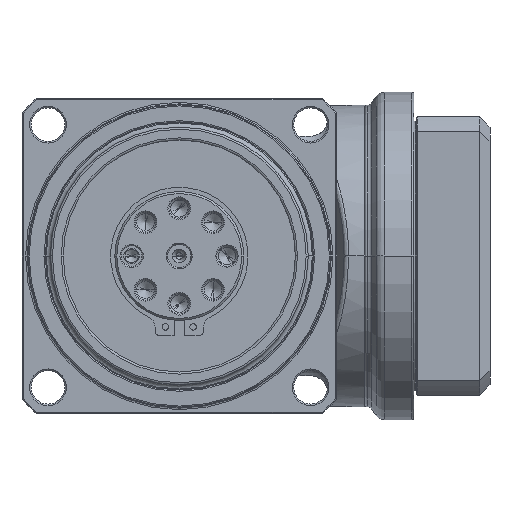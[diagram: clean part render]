
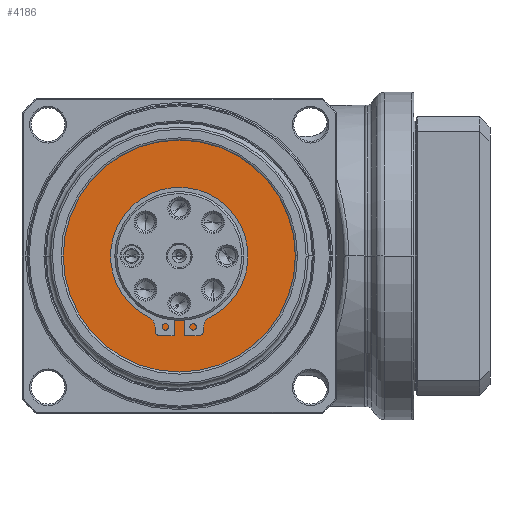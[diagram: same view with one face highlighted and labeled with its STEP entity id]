
A CAD part, left-side view. The second image highlights one B-rep face of the part: STEP entity #4186.
In plain terms, the highlighted planar face has unit normal (-1, 0, 0).
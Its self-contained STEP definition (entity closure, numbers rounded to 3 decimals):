
#3209=CARTESIAN_POINT('',(-42.8,0.,0.));
#3210=DIRECTION('',(1.,0.,0.));
#3211=DIRECTION('',(0.,1.,0.));
#3212=AXIS2_PLACEMENT_3D('',#3209,#3210,#3211);
#3218=CARTESIAN_POINT('',(-42.8,0.,0.));
#3219=DIRECTION('',(-1.,0.,0.));
#3220=DIRECTION('',(0.,1.,0.));
#3221=AXIS2_PLACEMENT_3D('',#3218,#3219,#3220);
#3237=CARTESIAN_POINT('',(-42.8,0.,0.));
#3238=DIRECTION('',(-1.,0.,0.));
#3239=DIRECTION('',(0.,1.,0.));
#3240=AXIS2_PLACEMENT_3D('',#3237,#3238,#3239);
#3242=CARTESIAN_POINT('',(-42.8,0.,0.));
#3243=DIRECTION('',(1.,0.,0.));
#3244=DIRECTION('',(0.,1.,0.));
#3245=AXIS2_PLACEMENT_3D('',#3242,#3243,#3244);
#3890=CARTESIAN_POINT('',(-42.8,45.,0.));
#3892=VERTEX_POINT('',#3890);
#3894=CARTESIAN_POINT('',(-42.8,-45.,0.));
#3896=VERTEX_POINT('',#3894);
#3897=CARTESIAN_POINT('',(-42.8,25.,0.));
#3898=CARTESIAN_POINT('',(-42.8,-25.,0.));
#3899=VERTEX_POINT('',#3897);
#3900=VERTEX_POINT('',#3898);
#4171=CARTESIAN_POINT('',(-42.8,0.,0.));
#4172=DIRECTION('',(1.,0.,0.));
#4173=DIRECTION('',(0.,-1.,0.));
#4174=AXIS2_PLACEMENT_3D('',#4171,#4172,#4173);
#4175=PLANE('',#4174);
#4177=ORIENTED_EDGE('',*,*,#4176,.F.);
#4179=ORIENTED_EDGE('',*,*,#4178,.T.);
#4180=EDGE_LOOP('',(#4177,#4179));
#4181=FACE_OUTER_BOUND('',#4180,.F.);
#4182=ORIENTED_EDGE('',*,*,#4138,.F.);
#4183=ORIENTED_EDGE('',*,*,#4153,.T.);
#4184=EDGE_LOOP('',(#4182,#4183));
#4185=FACE_BOUND('',#4184,.F.);
#4186=ADVANCED_FACE('',(#4181,#4185),#4175,.F.);
#3213=CIRCLE('',#3212,25.);
#3222=CIRCLE('',#3221,25.);
#3241=CIRCLE('',#3240,45.);
#3246=CIRCLE('',#3245,45.);
#4138=EDGE_CURVE('',#3899,#3900,#3213,.T.);
#4153=EDGE_CURVE('',#3899,#3900,#3222,.T.);
#4176=EDGE_CURVE('',#3892,#3896,#3241,.T.);
#4178=EDGE_CURVE('',#3892,#3896,#3246,.T.);
